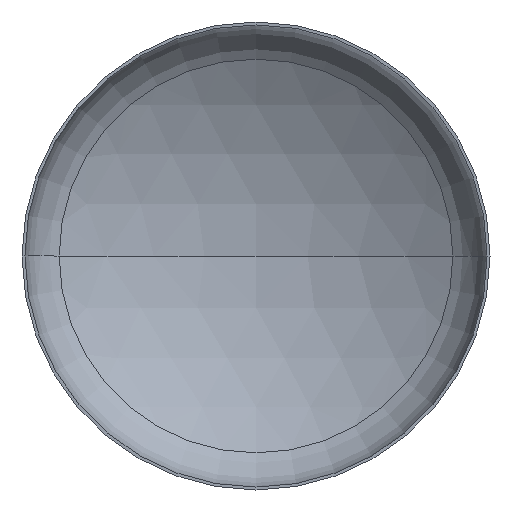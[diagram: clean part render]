
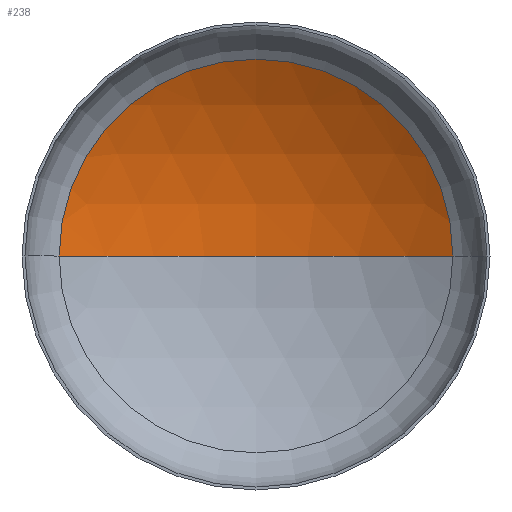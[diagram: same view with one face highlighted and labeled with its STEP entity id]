
A CAD part, front view. The second image highlights one B-rep face of the part: STEP entity #238.
In plain terms, the highlighted spherical face has radius 1920 mm.
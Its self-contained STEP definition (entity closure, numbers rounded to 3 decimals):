
#1 = DIRECTION ( 'NONE',  ( -1., 0., 0. ) ) ;
#7 = CARTESIAN_POINT ( 'NONE',  ( 0., -1273.437, 0. ) ) ;
#9 = DIRECTION ( 'NONE',  ( 0., -1., 0. ) ) ;
#16 = AXIS2_PLACEMENT_3D ( 'NONE', #286, #24, #27 ) ;
#24 = DIRECTION ( 'NONE',  ( 0., 0., -1. ) ) ;
#26 = AXIS2_PLACEMENT_3D ( 'NONE', #253, #9, #33 ) ;
#27 = DIRECTION ( 'NONE',  ( -1., 0., 0. ) ) ;
#33 = DIRECTION ( 'NONE',  ( 1., 0., 0. ) ) ;
#50 = VERTEX_POINT ( 'NONE', #232 ) ;
#52 = ORIENTED_EDGE ( 'NONE', *, *, #366, .T. ) ;
#56 = AXIS2_PLACEMENT_3D ( 'NONE', #290, #179, #1 ) ;
#63 = EDGE_LOOP ( 'NONE', ( #132, #105, #52 ) ) ;
#99 = CARTESIAN_POINT ( 'NONE',  ( -1009.548, 359.724, 0. ) ) ;
#105 = ORIENTED_EDGE ( 'NONE', *, *, #369, .T. ) ;
#112 = VERTEX_POINT ( 'NONE', #338 ) ;
#132 = ORIENTED_EDGE ( 'NONE', *, *, #396, .F. ) ;
#154 = VERTEX_POINT ( 'NONE', #99 ) ;
#165 = DIRECTION ( 'NONE',  ( 1., 0., 0. ) ) ;
#179 = DIRECTION ( 'NONE',  ( 0., 0., -1. ) ) ;
#230 = DIRECTION ( 'NONE',  ( 0., 0., 1. ) ) ;
#232 = CARTESIAN_POINT ( 'NONE',  ( 0., 646.563, 0. ) ) ;
#238 = ADVANCED_FACE ( 'NONE', ( #385 ), #345, .F. ) ;
#253 = CARTESIAN_POINT ( 'NONE',  ( 0., 359.724, 0. ) ) ;
#264 = AXIS2_PLACEMENT_3D ( 'NONE', #7, #230, #165 ) ;
#286 = CARTESIAN_POINT ( 'NONE',  ( 0., -1273.437, 0. ) ) ;
#290 = CARTESIAN_POINT ( 'NONE',  ( 0., -1273.437, 0. ) ) ;
#300 = CIRCLE ( 'NONE', #264, 1920. ) ;
#316 = CIRCLE ( 'NONE', #16, 1920. ) ;
#338 = CARTESIAN_POINT ( 'NONE',  ( 1009.548, 359.724, 0. ) ) ;
#345 = SPHERICAL_SURFACE ( 'NONE', #56, 1920. ) ;
#366 = EDGE_CURVE ( 'NONE', #112, #154, #407, .T. ) ;
#369 = EDGE_CURVE ( 'NONE', #50, #112, #316, .T. ) ;
#385 = FACE_OUTER_BOUND ( 'NONE', #63, .T. ) ;
#396 = EDGE_CURVE ( 'NONE', #50, #154, #300, .T. ) ;
#407 = CIRCLE ( 'NONE', #26, 1009.548 ) ;
